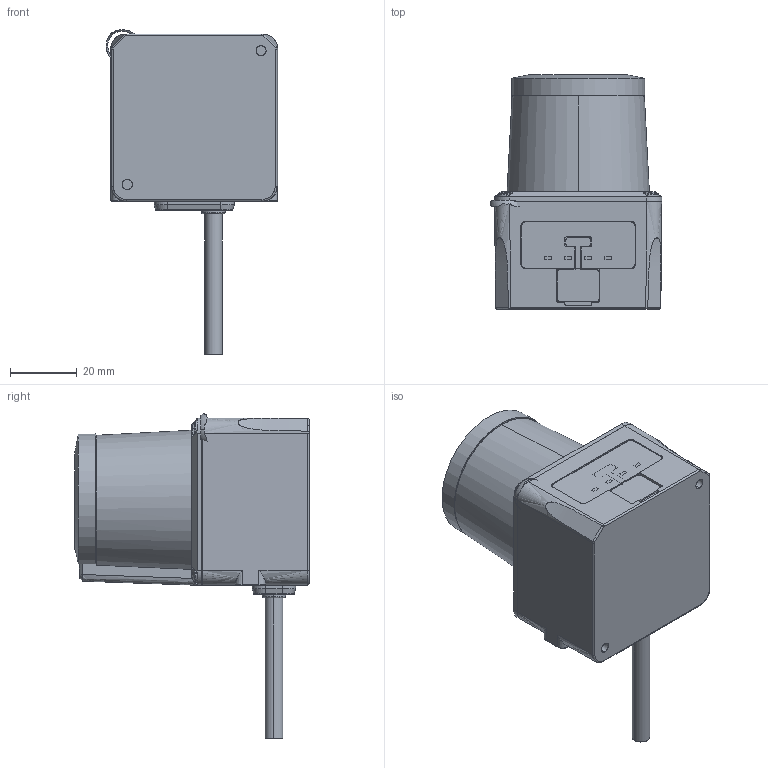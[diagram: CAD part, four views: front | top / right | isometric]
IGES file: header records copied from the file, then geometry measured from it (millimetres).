
Start section: SolidWorks IGES file using analytic representation for surfaces
Global section: file name: C:\Users\Administrator\Desktop\UST-05LN_LA.IGS; native system: SolidWorks 2014; preprocessor: SolidWorks 2014; author: Administrator; date: 140227.142920; units: millimetre
Bounding box: 51.31 x 70 x 97.11 mm (x, y, z)
Surface area: 18208.2 mm2 (no closed solid volume)
Topology: 0 solids, 0 shells, 416 faces, 4366 edges, 4366 vertices
Faces by surface type: bspline 293, revolution 123
